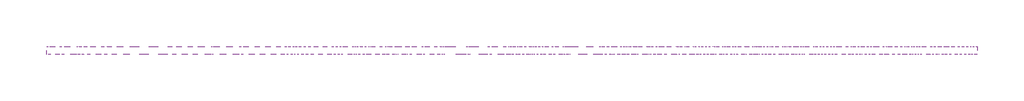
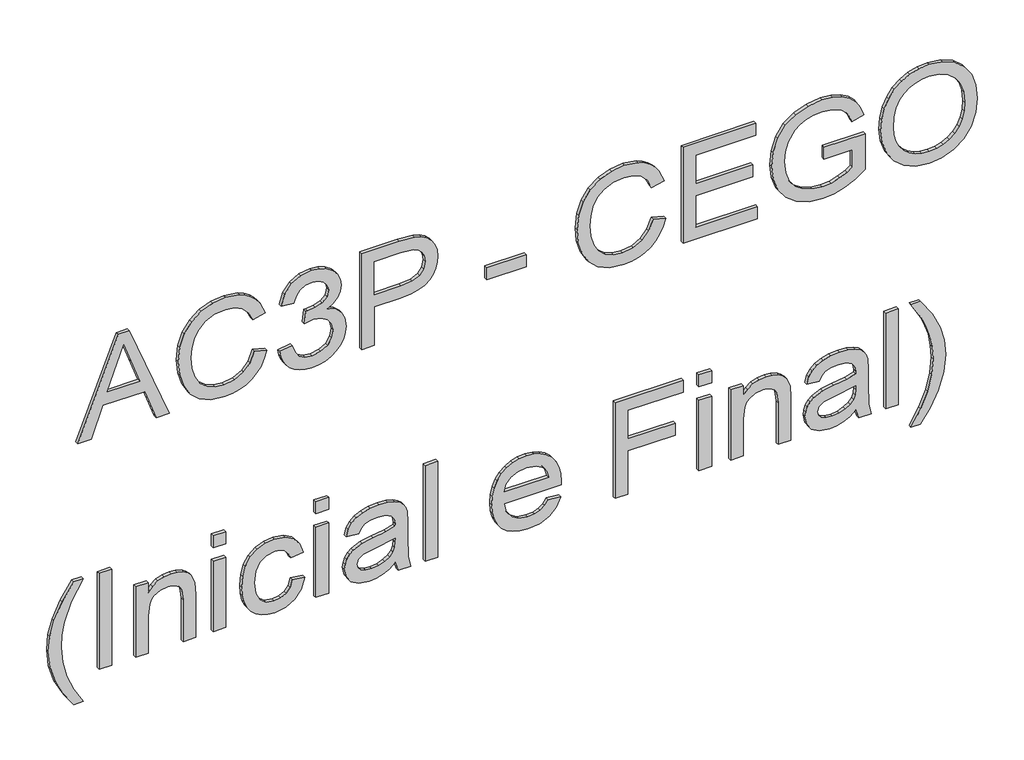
# One storey, part 7 of 12: 1 proxy.
"""IFC4 building model written with IfcOpenShell, lengths in millimetres."""

from ifc_helpers import new_model, si_unit, frame, origin, place, context, project, spatial, polyline, outline, extrude, element, save

model = new_model("IFC4")

# Units and contexts
model_context = context("Model", 3, world=origin())
ifc_project = project(units=[si_unit("LENGTHUNIT", "METRE", prefix="MILLI")], contexts=[model_context])

# Site, building, storey
site = spatial("IfcSite", under=ifc_project)
building = spatial("IfcBuilding", under=site)
storey = spatial("IfcBuildingStorey", under=building, Name="02 - Marelli - Planta Baixa - Painéis Cego", Elevation=12000.0)

# Proxy
placement = place(None, origin())
element("IfcBuildingElementProxy", 1, Name="300mm Arial", ObjectType="300mm Arial", at=placement, inside=storey, context=model_context, shape_type="SweptSolid", body=[
    extrude(outline(polyline([(17965.9244535, 32585.0031706), (17965.9244535, 32624.8080025), (18060.1022443, 32659.2417573), (18060.1022443, 32783.3651424), (17965.9244535, 32817.8724736), (17965.9244535, 32857.6773055), (18267.293384, 32737.379893), (18267.293384, 32705.3005831), (17965.9244535, 32585.0031706)]), holes=[polyline([(18097.7733606, 32673.0741203), (18178.3395176, 32702.5782563), (18229.6222677, 32721.340238), (18171.8647944, 32742.4566646), (18097.7733606, 32769.6063558), (18097.7733606, 32673.0741203)])]), frame((0.0, 8778.3159498, 0.0), z_axis=(0.0, 1.0, 0.0), x_axis=(0.0, 0.0, 1.0)), (0.0, 0.0, 1.0), 10.0),
    extrude(outline(polyline([(18073.0516905, 33109.823625), (18040.7884396, 33097.6375339), (18017.5750857, 33077.8546796), (18003.5587816, 33051.6522845), (17998.8866803, 33020.2075709), (18002.3171799, 32993.2326236), (18012.6086787, 32968.225845), (18029.8347531, 32947.3669359), (18054.0689796, 32932.8355971), (18084.1617268, 32924.3099318), (18118.9633635, 32921.4680434), (18147.3822477, 32923.8684734), (18174.9550032, 32931.0697635), (18199.3455795, 32944.1939537), (18218.2179258, 32964.3630841), (18230.3028494, 32990.9425582), (18234.3311572, 33023.2977797), (18230.6983225, 33051.3671759), (18219.7998184, 33074.2126478), (18200.9550632, 33092.0549246), (18173.4834752, 33105.1147354), (18182.4597959, 33142.7858517), (18220.278065, 33126.1483885), (18235.6003501, 33114.3462742), (18248.5314022, 33100.2219049), (18258.7999084, 33084.0419949), (18266.1345557, 33066.0732587), (18272.0022735, 33024.7693077), (18267.4681279, 32986.9142504), (18253.8656912, 32952.370131), (18231.526057, 32923.2430741), (18200.7803193, 32901.6392039), (18162.8332915, 32888.2574963), (18118.8897871, 32883.7969271), (18077.2271512, 32887.7424615), (18038.3236302, 32899.5790647), (18005.2326447, 32918.9664459), (17981.0076153, 32945.5643141), (17966.1635768, 32980.2647833), (17961.215564, 33023.9599673), (17962.8503396, 33046.3823749), (17967.7546665, 33067.0021607), (17975.9285445, 33085.8193248), (17987.3719739, 33102.833867), (18001.9286046, 33117.7100952), (18019.4420868, 33130.112317), (18039.9124206, 33140.0405323), (18063.3396059, 33147.4947413), (18073.0516905, 33109.823625)])), frame((0.0, 8778.3159498, 0.0), z_axis=(0.0, 1.0, 0.0), x_axis=(0.0, 0.0, 1.0)), (0.0, 0.0, 1.0), 10.0),
    extrude(outline(polyline([(18045.9755757, 33185.1658576), (18028.0827151, 33188.4170147), (18011.928097, 33194.4916661), (17997.5117213, 33203.3898119), (17984.8335881, 33215.111452), (17974.5007025, 33229.0909678), (17967.12007, 33244.7627408), (17962.6916905, 33262.126771), (17961.215564, 33281.1830583), (17962.9446094, 33302.2672952), (17968.1317455, 33321.4477427), (17976.7769724, 33338.7244009), (17988.88029, 33354.0972698), (18003.4668111, 33366.7156222), (18019.5616484, 33375.7287311), (18037.1648019, 33381.1365964), (18056.2762716, 33382.9392182), (18083.2420218, 33379.3339746), (18105.2781533, 33368.518244), (18121.5017493, 33351.0438492), (18131.029893, 33327.4626133), (18141.9008059, 33345.4152547), (18155.9722922, 33358.3647009), (18172.4901938, 33366.2005874), (18190.7003526, 33368.8125496), (18210.2440836, 33366.0626316), (18228.7025627, 33357.8128779), (18244.7238236, 33344.366791), (18256.9558999, 33326.0278735), (18264.709013, 33304.2768506), (18267.293384, 33280.5944471), (18262.0510656, 33247.7057967), (18246.3241103, 33220.7032583), (18221.0690113, 33200.9663893), (18187.2422618, 33189.8747471), (18182.5333723, 33227.5458634), (18203.134764, 33234.2229216), (18217.8500438, 33246.0135396), (18226.6792117, 33262.1635592), (18229.6222677, 33281.9188223), (18226.7068029, 33301.6372972), (18217.9604084, 33317.3826466), (18204.7626419, 33327.7017366), (18188.4930606, 33331.1414333), (18168.9585267, 33326.3957555), (18155.2365283, 33312.1587223), (18147.1247303, 33291.9803949), (18144.4207976, 33269.4108345), (18144.862256, 33263.3775697), (18107.1911397, 33259.183715), (18111.311418, 33285.5976422), (18107.4578541, 33309.2892427), (18095.8971624, 33328.4191065), (18078.4503588, 33341.055853), (18056.9384591, 33345.2681019), (18034.2769282, 33341.0190648), (18015.5885229, 33328.2719537), (18003.0621409, 33308.3327496), (17998.8866803, 33282.5074335), (18001.9217068, 33260.4988931), (18011.0267861, 33243.6223066), (18027.0112588, 33231.2706686), (18050.6844652, 33222.8369739), (18045.9755757, 33185.1658576)])), frame((0.0, 8778.3159498, 0.0), z_axis=(0.0, 1.0, 0.0), x_axis=(0.0, 0.0, 1.0)), (0.0, 0.0, 1.0), 10.0),
    extrude(outline(polyline([(17965.9244535, 33430.0281136), (17965.9244535, 33467.6992299), (18088.3555815, 33467.6992299), (18088.3555815, 33544.2922613), (18090.0202476, 33573.4905954), (18095.0142456, 33597.8098945), (18103.3375758, 33617.2501587), (18114.990238, 33631.8113879), (18129.0479287, 33642.4178857), (18144.5863445, 33649.9939555), (18161.6054853, 33654.5395974), (18180.1053511, 33656.0548114), (18201.5620685, 33653.8107312), (18221.19777, 33647.0784907), (18237.8444303, 33636.6582332), (18250.334024, 33623.350102), (18259.0620243, 33606.8230034), (18264.4239044, 33586.7458435), (18267.293384, 33541.7170873), (18267.293384, 33430.0281136), (17965.9244535, 33430.0281136)]), holes=[polyline([(18126.0266978, 33467.6992299), (18229.6222677, 33467.6992299), (18229.6222677, 33545.6166364), (18227.0470937, 33583.2877527), (18220.7195234, 33597.5155889), (18209.9773691, 33608.7083986), (18195.7035477, 33615.964871), (18178.7809759, 33618.3836951), (18156.5057211, 33614.2818108), (18139.8590609, 33601.9761581), (18129.4847886, 33579.9032384), (18126.0266978, 33546.4995532), (18126.0266978, 33467.6992299)])]), frame((0.0, 8778.3159498, 0.0), z_axis=(0.0, 1.0, 0.0), x_axis=(0.0, 0.0, 1.0)), (0.0, 0.0, 1.0), 10.0),
    extrude(outline(polyline([(33919.7526255, 8778.3159498), (33802.0303871, 8778.3159498), (33802.0303871, 8788.3159498), (33919.7526255, 8788.3159498), (33919.7526255, 8778.3159498)])), frame((0.0, 0.0, 18055.3933548), z_axis=(0.0, 0.0, 1.0), x_axis=(1.0, 0.0, 0.0)), (0.0, 0.0, 1.0), 37.6711163),
    extrude(outline(polyline([(18073.0516905, 34296.4637886), (18040.7884396, 34284.2776975), (18017.5750857, 34264.4948432), (18003.5587816, 34238.2924481), (17998.8866803, 34206.8477346), (18002.3171799, 34179.8727873), (18012.6086787, 34154.8660087), (18029.8347531, 34134.0070995), (18054.0689796, 34119.4757607), (18084.1617268, 34110.9500955), (18118.9633635, 34108.1082071), (18147.3822477, 34110.5086371), (18174.9550032, 34117.7099271), (18199.3455795, 34130.8341173), (18218.2179258, 34151.0032477), (18230.3028494, 34177.5827219), (18234.3311572, 34209.9379433), (18230.6983225, 34238.0073396), (18219.7998184, 34260.8528115), (18200.9550632, 34278.6950882), (18173.4834752, 34291.7548991), (18182.4597959, 34329.4260154), (18220.278065, 34312.7885521), (18235.6003501, 34300.9864379), (18248.5314022, 34286.8620685), (18258.7999084, 34270.6821585), (18266.1345557, 34252.7134223), (18272.0022735, 34211.4094713), (18267.4681279, 34173.554414), (18253.8656912, 34139.0102947), (18231.526057, 34109.8832377), (18200.7803193, 34088.2793675), (18162.8332915, 34074.89766), (18118.8897871, 34070.4370908), (18077.2271512, 34074.3826252), (18038.3236302, 34086.2192284), (18005.2326447, 34105.6066095), (17981.0076153, 34132.2044778), (17966.1635768, 34166.9049469), (17961.215564, 34210.6001309), (17962.8503396, 34233.0225385), (17967.7546665, 34253.6423244), (17975.9285445, 34272.4594884), (17987.3719739, 34289.4740307), (18001.9286046, 34304.3502589), (18019.4420868, 34316.7524806), (18039.9124206, 34326.680696), (18063.3396059, 34334.1349049), (18073.0516905, 34296.4637886)])), frame((0.0, 8778.3159498, 0.0), z_axis=(0.0, 1.0, 0.0), x_axis=(0.0, 0.0, 1.0)), (0.0, 0.0, 1.0), 10.0),
    extrude(outline(polyline([(17965.9244535, 34385.9326898), (17965.9244535, 34607.2504981), (18003.5955698, 34607.2504981), (18003.5955698, 34423.6038061), (18102.4822501, 34423.6038061), (18102.4822501, 34593.1238295), (18140.1533665, 34593.1238295), (18140.1533665, 34423.6038061), (18229.6222677, 34423.6038061), (18229.6222677, 34602.5416086), (18267.293384, 34602.5416086), (18267.293384, 34385.9326898), (17965.9244535, 34385.9326898)])), frame((0.0, 8778.3159498, 0.0), z_axis=(0.0, 1.0, 0.0), x_axis=(0.0, 0.0, 1.0)), (0.0, 0.0, 1.0), 10.0),
    extrude(outline(polyline([(18083.646692, 34805.0238587), (18083.646692, 34889.7838704), (18029.2001567, 34889.7838704), (18018.55917, 34873.7350184), (18008.5619768, 34851.6345075), (18001.3055044, 34826.1862705), (17998.8866803, 34800.09424), (18002.0964507, 34770.5441187), (18011.7257619, 34742.6678605), (18027.967752, 34718.8475014), (18051.015559, 34701.4650771), (18080.6576508, 34690.8424845), (18116.6824952, 34687.3016203), (18147.4006418, 34690.2446762), (18175.83792, 34699.0738441), (18204.8638094, 34718.4612253), (18216.8015801, 34732.9005936), (18226.2009651, 34751.2762992), (18232.2986092, 34773.5055688), (18234.3311572, 34799.5056288), (18232.445762, 34821.7165043), (18226.7895763, 34841.8488464), (18217.9971966, 34858.73463), (18206.7032194, 34871.2058297), (18191.7212251, 34880.6328058), (18171.8647944, 34888.3859188), (18181.6504555, 34923.1139792), (18209.4899255, 34913.5214562), (18231.4984659, 34900.3420837), (18248.494614, 34882.5273981), (18261.2969075, 34859.0289356), (18269.325932, 34831.1250863), (18272.0022735, 34800.09424), (18267.3853545, 34757.8245987), (18253.5345974, 34720.7788818), (18230.1832877, 34690.3642379), (18197.0647111, 34667.9878155), (18157.581776, 34654.2198319), (18115.1373908, 34649.630504), (18072.9965082, 34654.238226), (18035.0126922, 34668.0613919), (18003.3472495, 34690.9252579), (17980.1614867, 34722.65508), (17965.9520447, 34760.8504282), (17961.215564, 34803.1108724), (17964.1954082, 34835.4568968), (17973.1349406, 34867.0119749), (17987.9789791, 34897.7025304), (18008.6723414, 34927.4549867), (18121.3178083, 34927.4549867), (18121.3178083, 34805.0238587), (18083.646692, 34805.0238587)])), frame((0.0, 8778.3159498, 0.0), z_axis=(0.0, 1.0, 0.0), x_axis=(0.0, 0.0, 1.0)), (0.0, 0.0, 1.0), 10.0),
    extrude(outline(polyline([(18112.6357932, 34974.5438821), (18074.0909572, 34978.8481015), (18037.6246544, 34991.7607595), (18005.9316205, 35013.0243388), (17981.7065911, 35042.381322), (17966.3383208, 35078.0290873), (17961.215564, 35118.165013), (17965.8508771, 35155.9740851), (17979.7568166, 35191.1160127), (18002.6758649, 35221.0800012), (18034.3505046, 35243.355256), (18072.8125672, 35257.178422), (18116.093884, 35261.7861439), (18158.8049836, 35257.4083482), (18196.7336173, 35244.274961), (18228.3530748, 35222.7906525), (18252.1366458, 35193.3600928), (18267.0358666, 35157.9146626), (18272.0022735, 35118.3857422), (18269.3581217, 35088.0952584), (18261.4256662, 35060.7202395), (18248.204907, 35036.2606853), (18229.6958441, 35014.716596), (18206.5146799, 34997.1410337), (18179.2776166, 34984.5870606), (18147.9846544, 34977.0546767), (18112.6357932, 34974.5438821)]), holes=[polyline([(18112.2679112, 35012.2149984), (18142.8044161, 35014.1785686), (18168.6366299, 35020.069279), (18189.7645528, 35029.8871298), (18206.1881846, 35043.6321208), (18218.5007351, 35060.0994386), (18227.2954141, 35078.0842696), (18232.5722214, 35097.5866139), (18234.3311572, 35118.6064714), (18230.6799284, 35147.7703166), (18219.726242, 35173.8991353), (18202.1322856, 35195.5581878), (18178.5602467, 35211.3127342), (18149.7366924, 35220.9144543), (18116.3881896, 35224.1150276), (18089.8501021, 35222.2457272), (18066.5217851, 35216.6378261), (18046.4032385, 35207.2913241), (18029.4944623, 35194.2062214), (18016.1035577, 35178.224048), (18006.5386258, 35160.1863339), (18000.7996667, 35140.0930792), (17998.8866803, 35117.9442838), (18000.7812726, 35096.167969), (18006.4650494, 35076.309239), (18015.9380108, 35058.368094), (18029.2001567, 35042.3445338), (18045.759445, 35029.1628621), (18065.1238335, 35019.7473823), (18087.2933223, 35014.0980944), (18112.2679112, 35012.2149984)])]), frame((0.0, 8778.3159498, 0.0), z_axis=(0.0, 1.0, 0.0), x_axis=(0.0, 0.0, 1.0)), (0.0, 0.0, 1.0), 10.0),
    extrude(outline(polyline([(17149.3155348, 32573.0102176), (17149.3155348, 32601.2635548), (17197.5540614, 32572.4216064), (17245.8109821, 32551.8202147), (17294.0862969, 32539.4593796), (17342.3800058, 32535.3391013), (17380.2534572, 32537.7119402), (17417.9429677, 32544.8304568), (17475.7740173, 32566.0204597), (17535.4444769, 32601.2635548), (17535.4444769, 32573.0102176), (17484.934279, 32538.3189454), (17434.2033518, 32514.0019456), (17389.4137189, 32501.7514751), (17342.600735, 32497.667985), (17289.2210575, 32503.1310326), (17237.68079, 32519.5201755), (17190.2791949, 32543.8187813), (17149.3155348, 32573.0102176)])), frame((0.0, 8778.3159498, 0.0), z_axis=(0.0, 1.0, 0.0), x_axis=(0.0, 0.0, 1.0)), (0.0, 0.0, 1.0), 10.0),
    extrude(outline(polyline([(32686.0235665, 8778.3159498), (32648.3524502, 8778.3159498), (32648.3524502, 8788.3159498), (32686.0235665, 8788.3159498), (32686.0235665, 8778.3159498)])), frame((0.0, 0.0, 17234.0755465), z_axis=(0.0, 0.0, 1.0), x_axis=(1.0, 0.0, 0.0)), (0.0, 0.0, 1.0), 301.3689304),
    extrude(outline(polyline([(17234.0755465, 32756.6569096), (17234.0755465, 32794.3280259), (17351.5034793, 32794.3280259), (17386.2131456, 32798.6230482), (17398.5877762, 32803.9918261), (17407.6422718, 32811.5081151), (17418.7339139, 32830.3160821), (17422.431128, 32852.3798047), (17420.7848561, 32866.2765471), (17415.8460403, 32878.241909), (17408.1481095, 32887.5769146), (17398.2244927, 32893.5825882), (17364.8943839, 32897.9235957), (17234.0755465, 32897.9235957), (17234.0755465, 32935.594712), (17369.9711555, 32935.594712), (17406.391473, 32933.6081493), (17434.0929872, 32922.314172), (17444.6328064, 32912.2158112), (17452.9285454, 32898.0339603), (17458.3088196, 32881.0286151), (17460.1022443, 32862.4597714), (17457.8765582, 32841.4813006), (17451.1995, 32823.1331861), (17440.0710697, 32807.4154279), (17424.4912672, 32794.3280259), (17455.3933548, 32794.3280259), (17455.3933548, 32756.6569096), (17234.0755465, 32756.6569096)])), frame((0.0, 8778.3159498, 0.0), z_axis=(0.0, 1.0, 0.0), x_axis=(0.0, 0.0, 1.0)), (0.0, 0.0, 1.0), 10.0),
    extrude(outline(polyline([(33025.0636133, 8778.3159498), (32987.392497, 8778.3159498), (32987.392497, 8788.3159498), (33025.0636133, 8788.3159498), (33025.0636133, 8778.3159498)])), frame((0.0, 0.0, 17497.7733606), z_axis=(0.0, 0.0, 1.0), x_axis=(1.0, 0.0, 0.0)), (0.0, 0.0, 1.0), 37.6711163),
    extrude(outline(polyline([(33025.0636133, 8778.3159498), (32987.392497, 8778.3159498), (32987.392497, 8788.3159498), (33025.0636133, 8788.3159498), (33025.0636133, 8778.3159498)])), frame((0.0, 0.0, 17234.0755465), z_axis=(0.0, 0.0, 1.0), x_axis=(1.0, 0.0, 0.0)), (0.0, 0.0, 1.0), 221.3178083),
    extrude(outline(polyline([(17314.1266686, 33222.8369739), (17293.2493654, 33216.408236), (17278.5892679, 33204.7739679), (17269.9256469, 33188.7802982), (17267.0377732, 33169.2733554), (17271.6638893, 33145.241464), (17285.5422376, 33126.2679501), (17309.6477053, 33113.9347063), (17344.9551798, 33109.823625), (17379.7936048, 33114.0266767), (17403.816299, 33126.6358321), (17417.7774208, 33145.9588339), (17422.431128, 33170.303425), (17420.0674862, 33186.7937354), (17412.9765607, 33200.6536896), (17401.1951398, 33211.2946763), (17384.7600117, 33218.1280843), (17389.4689012, 33255.7992006), (17419.4512838, 33245.54449), (17441.7081445, 33227.288346), (17455.5037194, 33201.840109), (17460.1022443, 33170.0091194), (17456.7545181, 33143.3652659), (17446.7113397, 33118.7631574), (17429.9635118, 33098.1985539), (17406.5018376, 33083.6672151), (17377.448357, 33075.0311853), (17343.9251102, 33072.1525086), (17317.8675687, 33073.837868), (17295.024396, 33078.8939462), (17275.3955923, 33087.3207432), (17258.9811575, 33099.1182589), (17246.0248135, 33113.6932837), (17236.7702821, 33130.4526078), (17231.2175632, 33149.3962313), (17229.3666569, 33170.5241542), (17234.6733547, 33203.1552871), (17250.593448, 33230.2681902), (17275.9129264, 33250.0050592), (17309.4177791, 33260.5080902), (17314.1266686, 33222.8369739)])), frame((0.0, 8778.3159498, 0.0), z_axis=(0.0, 1.0, 0.0), x_axis=(0.0, 0.0, 1.0)), (0.0, 0.0, 1.0), 10.0),
    extrude(outline(polyline([(33331.1414333, 8778.3159498), (33293.4703169, 8778.3159498), (33293.4703169, 8788.3159498), (33331.1414333, 8788.3159498), (33331.1414333, 8778.3159498)])), frame((0.0, 0.0, 17497.7733606), z_axis=(0.0, 0.0, 1.0), x_axis=(1.0, 0.0, 0.0)), (0.0, 0.0, 1.0), 37.6711163),
    extrude(outline(polyline([(33331.1414333, 8778.3159498), (33293.4703169, 8778.3159498), (33293.4703169, 8788.3159498), (33331.1414333, 8788.3159498), (33331.1414333, 8778.3159498)])), frame((0.0, 0.0, 17234.0755465), z_axis=(0.0, 0.0, 1.0), x_axis=(1.0, 0.0, 0.0)), (0.0, 0.0, 1.0), 221.3178083),
    extrude(outline(polyline([(17262.3288837, 33528.9147939), (17234.0755465, 33538.3325729), (17234.0755465, 33576.0036892), (17265.7501862, 33568.4988965), (17331.1963932, 33566.5859102), (17378.0645594, 33566.5859102), (17411.0267861, 33564.7465002), (17425.1442577, 33560.2031575), (17436.5945848, 33553.1950055), (17445.856014, 33542.6275952), (17453.406792, 33527.4064777), (17458.4283812, 33507.2189532), (17460.1022443, 33481.7523221), (17458.207652, 33455.2004391), (17452.5238752, 33432.0514645), (17443.3452194, 33413.1239359), (17430.9659903, 33399.2363906), (17414.7791825, 33389.4783206), (17394.1777908, 33382.9392182), (17389.4689012, 33420.6103345), (17405.1314772, 33428.0967331), (17415.1838527, 33438.783705), (17420.6193092, 33454.455478), (17422.431128, 33476.8962797), (17419.7088012, 33501.1397032), (17411.5418209, 33518.5405216), (17400.5421493, 33526.3212258), (17383.7299421, 33528.9147939), (17375.3422326, 33528.6940647), (17368.3524747, 33501.8754672), (17362.3927864, 33463.3582223), (17356.7274037, 33430.7638775), (17344.3665686, 33404.3867385), (17334.8752131, 33393.78254), (17322.7351073, 33385.4408157), (17308.5532564, 33380.0329504), (17292.9366657, 33378.2303286), (17267.6079903, 33383.0035975), (17247.2457219, 33397.3234042), (17233.8364232, 33420.5459551), (17229.3666569, 33452.0274569), (17231.224461, 33472.895563), (17236.7978732, 33492.3841117), (17246.896234, 33510.9161672), (17262.3288837, 33528.9147939)]), holes=[polyline([(17337.6711163, 33528.9147939), (17327.0025384, 33528.6940647), (17310.0799667, 33527.2041426), (17297.8662844, 33522.7343763), (17286.0112871, 33512.6544097), (17276.0508821, 33498.1598591), (17269.2910505, 33480.2807941), (17267.0377732, 33460.0472844), (17269.0795183, 33440.9634059), (17275.2047535, 33427.1218458), (17284.3834093, 33418.7065452), (17295.5854161, 33415.9014449), (17310.0799667, 33421.0517929), (17320.0127805, 33435.7302845), (17326.1196217, 33468.1406883), (17337.6711163, 33528.9147939)])]), frame((0.0, 8778.3159498, 0.0), z_axis=(0.0, 1.0, 0.0), x_axis=(0.0, 0.0, 1.0)), (0.0, 0.0, 1.0), 10.0),
    extrude(outline(polyline([(33656.0548114, 8778.3159498), (33618.3836951, 8778.3159498), (33618.3836951, 8788.3159498), (33656.0548114, 8788.3159498), (33656.0548114, 8778.3159498)])), frame((0.0, 0.0, 17234.0755465), z_axis=(0.0, 0.0, 1.0), x_axis=(1.0, 0.0, 0.0)), (0.0, 0.0, 1.0), 301.3689304),
    extrude(outline(polyline([(17300.0, 33985.2356207), (17285.1191733, 33974.6774074), (17274.9104479, 33960.955409), (17269.0059419, 33944.0696254), (17267.0377732, 33924.0200567), (17271.2868103, 33897.3578091), (17284.0339214, 33875.4964215), (17304.7640718, 33860.3488804), (17332.9622268, 33853.828172), (17332.9622268, 34023.1274662), (17343.1157698, 34023.3481954), (17369.3687487, 34021.5616684), (17392.5039277, 34016.2020876), (17412.5213067, 34007.2694529), (17429.4208859, 33994.7637644), (17442.8439802, 33979.4437785), (17452.4319047, 33962.068252), (17458.1846594, 33942.6371849), (17460.1022443, 33921.1505771), (17458.1800609, 33898.9488987), (17452.4135106, 33878.9177241), (17442.8025935, 33861.0570532), (17429.3473095, 33845.3668861), (17412.4109422, 33832.5875853), (17392.3567749, 33823.4595133), (17369.1848077, 33817.9826701), (17342.8950406, 33816.1570557), (17317.467497, 33817.964276), (17295.0427901, 33823.3859369), (17275.62092, 33832.4220384), (17259.2018867, 33845.0725805), (17246.1489737, 33860.8041343), (17236.8254644, 33879.083271), (17231.2313588, 33899.9099904), (17229.3666569, 33923.2842927), (17233.6892704, 33958.9412551), (17246.6571107, 33987.6268536), (17267.4608375, 34008.8628418), (17295.2911105, 34022.170973), (17300.0, 33985.2356207)]), holes=[polyline([(17370.6333431, 33853.828172), (17391.8693312, 33860.0177866), (17408.3412476, 33874.6135047), (17418.9086579, 33895.6103696), (17422.431128, 33921.0034243), (17418.0165441, 33948.6313622), (17404.7727922, 33970.5939173), (17390.535759, 33980.5819134), (17370.6333431, 33985.6770791), (17370.6333431, 33853.828172)])]), frame((0.0, 8778.3159498, 0.0), z_axis=(0.0, 1.0, 0.0), x_axis=(0.0, 0.0, 1.0)), (0.0, 0.0, 1.0), 10.0),
    extrude(outline(polyline([(17234.0755465, 34183.4504397), (17234.0755465, 34221.121556), (17370.6333431, 34221.121556), (17370.6333431, 34362.3882421), (17408.3044594, 34362.3882421), (17408.3044594, 34221.121556), (17497.7733606, 34221.121556), (17497.7733606, 34385.9326898), (17535.4444769, 34385.9326898), (17535.4444769, 34183.4504397), (17234.0755465, 34183.4504397)])), frame((0.0, 8778.3159498, 0.0), z_axis=(0.0, 1.0, 0.0), x_axis=(0.0, 0.0, 1.0)), (0.0, 0.0, 1.0), 10.0),
    extrude(outline(polyline([(34470.6927015, 8778.3159498), (34433.0215852, 8778.3159498), (34433.0215852, 8788.3159498), (34470.6927015, 8788.3159498), (34470.6927015, 8778.3159498)])), frame((0.0, 0.0, 17497.7733606), z_axis=(0.0, 0.0, 1.0), x_axis=(1.0, 0.0, 0.0)), (0.0, 0.0, 1.0), 37.6711163),
    extrude(outline(polyline([(34470.6927015, 8778.3159498), (34433.0215852, 8778.3159498), (34433.0215852, 8788.3159498), (34470.6927015, 8788.3159498), (34470.6927015, 8778.3159498)])), frame((0.0, 0.0, 17234.0755465), z_axis=(0.0, 0.0, 1.0), x_axis=(1.0, 0.0, 0.0)), (0.0, 0.0, 1.0), 221.3178083),
    extrude(outline(polyline([(17234.0755465, 34527.199376), (17234.0755465, 34564.8704923), (17351.5034793, 34564.8704923), (17386.2131456, 34569.1655146), (17398.5877762, 34574.5342924), (17407.6422718, 34582.0505815), (17418.7339139, 34600.8585485), (17422.431128, 34622.9222711), (17420.7848561, 34636.8190135), (17415.8460403, 34648.7843754), (17408.1481095, 34658.119381), (17398.2244927, 34664.1250546), (17364.8943839, 34668.4660621), (17234.0755465, 34668.4660621), (17234.0755465, 34706.1371784), (17369.9711555, 34706.1371784), (17406.391473, 34704.1506157), (17434.0929872, 34692.8566384), (17444.6328064, 34682.7582776), (17452.9285454, 34668.5764267), (17458.3088196, 34651.5710815), (17460.1022443, 34633.0022378), (17457.8765582, 34612.023767), (17451.1995, 34593.6756525), (17440.0710697, 34577.9578943), (17424.4912672, 34564.8704923), (17455.3933548, 34564.8704923), (17455.3933548, 34527.199376), (17234.0755465, 34527.199376)])), frame((0.0, 8778.3159498, 0.0), z_axis=(0.0, 1.0, 0.0), x_axis=(0.0, 0.0, 1.0)), (0.0, 0.0, 1.0), 10.0),
    extrude(outline(polyline([(17262.3288837, 34899.2016495), (17234.0755465, 34908.6194286), (17234.0755465, 34946.2905449), (17265.7501862, 34938.7857522), (17331.1963932, 34936.8727658), (17378.0645594, 34936.8727658), (17411.0267861, 34935.0333558), (17425.1442577, 34930.4900132), (17436.5945848, 34923.4818612), (17445.856014, 34912.9144509), (17453.406792, 34897.6933333), (17458.4283812, 34877.5058088), (17460.1022443, 34852.0391777), (17458.207652, 34825.4872947), (17452.5238752, 34802.3383202), (17443.3452194, 34783.4107915), (17430.9659903, 34769.5232462), (17414.7791825, 34759.7651763), (17394.1777908, 34753.2260738), (17389.4689012, 34790.8971901), (17405.1314772, 34798.3835887), (17415.1838527, 34809.0705607), (17420.6193092, 34824.7423337), (17422.431128, 34847.1831354), (17419.7088012, 34871.4265589), (17411.5418209, 34888.8273772), (17400.5421493, 34896.6080814), (17383.7299421, 34899.2016495), (17375.3422326, 34898.9809203), (17368.3524747, 34872.1623228), (17362.3927864, 34833.645078), (17356.7274037, 34801.0507332), (17344.3665686, 34774.6735941), (17334.8752131, 34764.0693956), (17322.7351073, 34755.7276714), (17308.5532564, 34750.319806), (17292.9366657, 34748.5171843), (17267.6079903, 34753.2904532), (17247.2457219, 34767.6102598), (17233.8364232, 34790.8328108), (17229.3666569, 34822.3143125), (17231.224461, 34843.1824187), (17236.7978732, 34862.6709674), (17246.896234, 34881.2030229), (17262.3288837, 34899.2016495)]), holes=[polyline([(17337.6711163, 34899.2016495), (17327.0025384, 34898.9809203), (17310.0799667, 34897.4909982), (17297.8662844, 34893.021232), (17286.0112871, 34882.9412653), (17276.0508821, 34868.4467147), (17269.2910505, 34850.5676497), (17267.0377732, 34830.33414), (17269.0795183, 34811.2502615), (17275.2047535, 34797.4087014), (17284.3834093, 34788.9934008), (17295.5854161, 34786.1883006), (17310.0799667, 34791.3386485), (17320.0127805, 34806.0171401), (17326.1196217, 34838.4275439), (17337.6711163, 34899.2016495)])]), frame((0.0, 8778.3159498, 0.0), z_axis=(0.0, 1.0, 0.0), x_axis=(0.0, 0.0, 1.0)), (0.0, 0.0, 1.0), 10.0),
    extrude(outline(polyline([(35026.341667, 8778.3159498), (34988.6705507, 8778.3159498), (34988.6705507, 8788.3159498), (35026.341667, 8788.3159498), (35026.341667, 8778.3159498)])), frame((0.0, 0.0, 17234.0755465), z_axis=(0.0, 0.0, 1.0), x_axis=(1.0, 0.0, 0.0)), (0.0, 0.0, 1.0), 301.3689304),
    extrude(outline(polyline([(17149.3155348, 35092.2661206), (17190.2791949, 35121.3196011), (17237.68079, 35145.6457981), (17289.2210575, 35162.1177144), (17342.600735, 35167.6083532), (17389.4137189, 35163.524863), (17434.2033518, 35151.2743926), (17484.934279, 35126.9573927), (17535.4444769, 35092.2661206), (17535.4444769, 35064.0127833), (17475.1854061, 35099.4766077), (17446.8400984, 35111.4511666), (17417.2807801, 35120.4458814), (17379.9775458, 35127.564398), (17342.3800058, 35129.9372369), (17294.0862969, 35125.8169585), (17245.8109821, 35113.4561235), (17197.5540614, 35092.8547318), (17149.3155348, 35064.0127833), (17149.3155348, 35092.2661206)])), frame((0.0, 8778.3159498, 0.0), z_axis=(0.0, 1.0, 0.0), x_axis=(0.0, 0.0, 1.0)), (0.0, 0.0, 1.0), 10.0),
])

save(model, "model.ifc")
